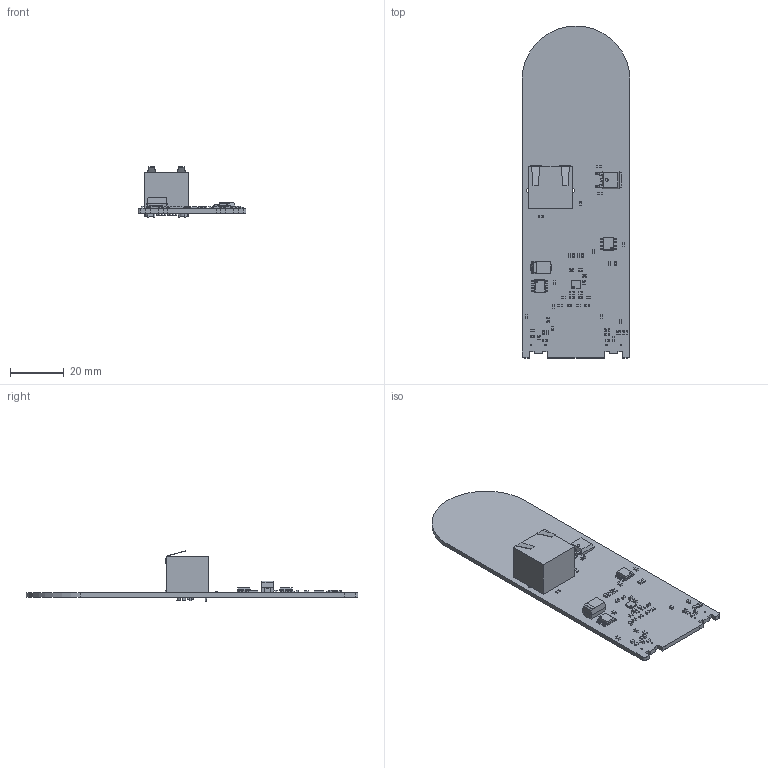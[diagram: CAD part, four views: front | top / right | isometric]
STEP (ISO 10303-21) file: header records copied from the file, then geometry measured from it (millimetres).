
FILE_DESCRIPTION(('KiCad electronic assembly'),'2;1');
FILE_NAME('SAPreamp1r1.step','2024-11-01T16:30:57',('Pcbnew'),('Kicad'), 'Open CASCADE STEP processor 7.6','KiCad to STEP converter','Unknown' );
FILE_SCHEMA(('AUTOMOTIVE_DESIGN { 1 0 10303 214 1 1 1 1 }'));
Length unit declared in the file: millimetre
Products named in the file (16): SAPreamp1r1 1; C_0603_1608Metric; R_0603_1608Metric; SOIC-8_3.9x4.9mm_P1.27mm; SOIC_8_39x49mm_P127mm; CP_EIA-7343-43_Kemet-X; CP_EIA_7343_43_Kemet_X; RJ45_Amphenol_RJHSE538X; LFCSP-16-1EP_3x3mm_P0.5mm_EP1.6x1.6mm; TO-252-2; CQ assembly; SAPreamp1r1_PCB
Assembly tree (60 placements, depth 3):
  SAPreamp1r1 1
    C_0603_1608Metric  x26
      C_0603_1608Metric
    R_0603_1608Metric  x20
      R_0603_1608Metric
    SOIC-8_3.9x4.9mm_P1.27mm  x2
      SOIC_8_39x49mm_P127mm
    CP_EIA-7343-43_Kemet-X
      CP_EIA_7343_43_Kemet_X
    RJ45_Amphenol_RJHSE538X
      RJ45_Amphenol_RJHSE538X
    LFCSP-16-1EP_3x3mm_P0.5mm_EP1.6x1.6mm
      LFCSP-16-1EP_3x3mm_P0.5mm_EP1.6x1.6mm
    TO-252-2
      CQ assembly
    SAPreamp1r1_PCB
Bounding box: 40 x 123.05 x 18.68 mm (x, y, z)
Volume: 10326 mm3; surface area: 13214.2 mm2
Topology: 59 solids, 59 shells, 2013 faces, 5257 edges, 3448 vertices
Faces by surface type: plane 1326, cylinder 614, bspline 73
Full cylindrical faces by diameter (mm): 0.3 x4, 0.5 x17, 0.6 x2, 0.89 x12, 1 x1, 1.57 x2, 3.25 x4
Entity records: 25910 total; most frequent: CARTESIAN_POINT 4939, ORIENTED_EDGE 3524, DIRECTION 3344, EDGE_CURVE 1762, LINE 1430, VECTOR 1430, VERTEX_POINT 1162, AXIS2_PLACEMENT_3D 957
